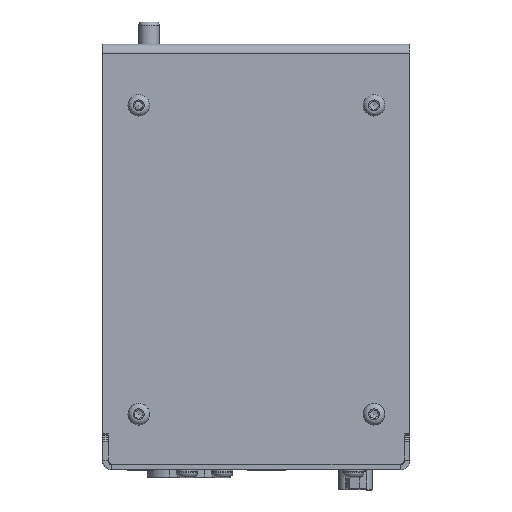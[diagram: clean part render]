
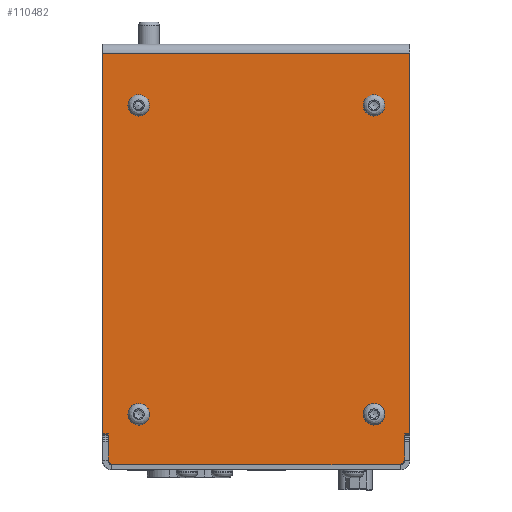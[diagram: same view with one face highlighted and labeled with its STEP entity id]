
A CAD part, front view. The second image highlights one B-rep face of the part: STEP entity #110482.
In plain terms, the highlighted planar face has unit normal (0.002, -1, 0).
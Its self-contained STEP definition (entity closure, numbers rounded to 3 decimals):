
#3684=FACE_BOUND('',#16252,.T.);
#3685=FACE_BOUND('',#16253,.T.);
#3686=FACE_BOUND('',#16254,.T.);
#3687=FACE_BOUND('',#16255,.T.);
#5393=PLANE('',#116049);
#10225=FACE_OUTER_BOUND('',#16251,.T.);
#16251=EDGE_LOOP('',(#83049,#83050,#83051,#83052,#83053,#83054,#83055,#83056,
#83057,#83058,#83059,#83060));
#16252=EDGE_LOOP('',(#83061));
#16253=EDGE_LOOP('',(#83062));
#16254=EDGE_LOOP('',(#83063));
#16255=EDGE_LOOP('',(#83064));
#24101=LINE('',#170630,#35816);
#24182=LINE('',#170842,#35897);
#24186=LINE('',#170849,#35901);
#24187=LINE('',#170852,#35902);
#24188=LINE('',#170854,#35903);
#24189=LINE('',#170856,#35904);
#24190=LINE('',#170858,#35905);
#24191=LINE('',#170860,#35906);
#24192=LINE('',#170861,#35907);
#24193=LINE('',#170862,#35908);
#35816=VECTOR('',#128652,10.);
#35897=VECTOR('',#128829,10.);
#35901=VECTOR('',#128835,10.);
#35902=VECTOR('',#128838,10.);
#35903=VECTOR('',#128839,10.);
#35904=VECTOR('',#128840,10.);
#35905=VECTOR('',#128841,10.);
#35906=VECTOR('',#128842,10.);
#35907=VECTOR('',#128843,10.);
#35908=VECTOR('',#128844,10.);
#43885=CIRCLE('',#115815,3.);
#43900=CIRCLE('',#115853,3.);
#43915=CIRCLE('',#115891,3.);
#43930=CIRCLE('',#115929,3.);
#43984=CIRCLE('',#116046,1.5);
#43986=CIRCLE('',#116050,1.5);
#49177=VERTEX_POINT('',#169926);
#49209=VERTEX_POINT('',#170086);
#49241=VERTEX_POINT('',#170246);
#49273=VERTEX_POINT('',#170406);
#49320=VERTEX_POINT('',#170622);
#49323=VERTEX_POINT('',#170628);
#49402=VERTEX_POINT('',#170832);
#49403=VERTEX_POINT('',#170834);
#49404=VERTEX_POINT('',#170838);
#49406=VERTEX_POINT('',#170841);
#49408=VERTEX_POINT('',#170848);
#49409=VERTEX_POINT('',#170850);
#49410=VERTEX_POINT('',#170853);
#49411=VERTEX_POINT('',#170855);
#49412=VERTEX_POINT('',#170857);
#49413=VERTEX_POINT('',#170859);
#61416=EDGE_CURVE('',#49177,#49177,#43885,.T.);
#61470=EDGE_CURVE('',#49209,#49209,#43900,.T.);
#61524=EDGE_CURVE('',#49241,#49241,#43915,.T.);
#61578=EDGE_CURVE('',#49273,#49273,#43930,.T.);
#61662=EDGE_CURVE('',#49320,#49323,#24101,.T.);
#61762=EDGE_CURVE('',#49402,#49403,#43984,.T.);
#61765=EDGE_CURVE('',#49406,#49404,#24182,.T.);
#61769=EDGE_CURVE('',#49402,#49408,#24186,.T.);
#61770=EDGE_CURVE('',#49409,#49408,#43986,.T.);
#61771=EDGE_CURVE('',#49409,#49320,#24187,.T.);
#61772=EDGE_CURVE('',#49323,#49410,#24188,.T.);
#61773=EDGE_CURVE('',#49411,#49410,#24189,.T.);
#61774=EDGE_CURVE('',#49411,#49412,#24190,.T.);
#61775=EDGE_CURVE('',#49413,#49412,#24191,.T.);
#61776=EDGE_CURVE('',#49413,#49406,#24192,.T.);
#61777=EDGE_CURVE('',#49403,#49404,#24193,.T.);
#83049=ORIENTED_EDGE('',*,*,#61762,.F.);
#83050=ORIENTED_EDGE('',*,*,#61769,.T.);
#83051=ORIENTED_EDGE('',*,*,#61770,.F.);
#83052=ORIENTED_EDGE('',*,*,#61771,.T.);
#83053=ORIENTED_EDGE('',*,*,#61662,.T.);
#83054=ORIENTED_EDGE('',*,*,#61772,.T.);
#83055=ORIENTED_EDGE('',*,*,#61773,.F.);
#83056=ORIENTED_EDGE('',*,*,#61774,.T.);
#83057=ORIENTED_EDGE('',*,*,#61775,.F.);
#83058=ORIENTED_EDGE('',*,*,#61776,.T.);
#83059=ORIENTED_EDGE('',*,*,#61765,.T.);
#83060=ORIENTED_EDGE('',*,*,#61777,.F.);
#83061=ORIENTED_EDGE('',*,*,#61416,.T.);
#83062=ORIENTED_EDGE('',*,*,#61470,.T.);
#83063=ORIENTED_EDGE('',*,*,#61524,.T.);
#83064=ORIENTED_EDGE('',*,*,#61578,.T.);
#110482=ADVANCED_FACE('',(#10225,#3684,#3685,#3686,#3687),#5393,.T.);
#115815=AXIS2_PLACEMENT_3D('',#169927,#128161,#128162);
#115853=AXIS2_PLACEMENT_3D('',#170087,#128264,#128265);
#115891=AXIS2_PLACEMENT_3D('',#170247,#128367,#128368);
#115929=AXIS2_PLACEMENT_3D('',#170407,#128470,#128471);
#116046=AXIS2_PLACEMENT_3D('',#170835,#128822,#128823);
#116049=AXIS2_PLACEMENT_3D('',#170847,#128833,#128834);
#116050=AXIS2_PLACEMENT_3D('',#170851,#128836,#128837);
#128161=DIRECTION('center_axis',(-0.002,1.,
0.));
#128162=DIRECTION('ref_axis',(-1.,-0.002,0.));
#128264=DIRECTION('center_axis',(-0.002,1.,
0.));
#128265=DIRECTION('ref_axis',(-1.,-0.002,0.));
#128367=DIRECTION('center_axis',(-0.002,1.,
0.));
#128368=DIRECTION('ref_axis',(-1.,-0.002,0.));
#128470=DIRECTION('center_axis',(-0.002,1.,
0.));
#128471=DIRECTION('ref_axis',(-1.,-0.002,0.));
#128652=DIRECTION('',(0.,0.,1.));
#128822=DIRECTION('center_axis',(-0.002,1.,
0.));
#128823=DIRECTION('ref_axis',(-0.707,-0.001,-0.707));
#128829=DIRECTION('',(0.,0.,-1.));
#128833=DIRECTION('center_axis',(0.002,-1.,
0.));
#128834=DIRECTION('ref_axis',(1.,0.002,0.));
#128835=DIRECTION('',(1.,0.002,0.));
#128836=DIRECTION('center_axis',(-0.002,1.,
0.));
#128837=DIRECTION('ref_axis',(0.707,0.001,-0.707));
#128838=DIRECTION('',(0.,0.,1.));
#128839=DIRECTION('',(1.,0.002,0.));
#128840=DIRECTION('',(0.,0.,-1.));
#128841=DIRECTION('',(-1.,-0.002,0.));
#128842=DIRECTION('',(0.,0.,1.));
#128843=DIRECTION('',(1.,0.002,0.));
#128844=DIRECTION('',(0.,0.,1.));
#169926=CARTESIAN_POINT('',(-190.104,92.471,32.991));
#169927=CARTESIAN_POINT('Origin',(-193.104,92.464,32.991));
#170086=CARTESIAN_POINT('',(-124.604,92.607,118.991));
#170087=CARTESIAN_POINT('Origin',(-127.604,92.6,118.991));
#170246=CARTESIAN_POINT('',(-190.104,92.471,118.991));
#170247=CARTESIAN_POINT('Origin',(-193.104,92.464,118.991));
#170406=CARTESIAN_POINT('',(-124.604,92.607,32.991));
#170407=CARTESIAN_POINT('Origin',(-127.604,92.6,32.991));
#170622=CARTESIAN_POINT('',(-119.104,92.618,25.491));
#170628=CARTESIAN_POINT('',(-119.104,92.618,27.491));
#170630=CARTESIAN_POINT('',(-119.104,92.618,52.516));
#170832=CARTESIAN_POINT('',(-200.104,92.45,18.991));
#170834=CARTESIAN_POINT('',(-201.604,92.447,20.491));
#170835=CARTESIAN_POINT('Origin',(-200.104,92.45,20.491));
#170838=CARTESIAN_POINT('',(-201.604,92.447,25.491));
#170841=CARTESIAN_POINT('',(-201.604,92.447,27.491));
#170842=CARTESIAN_POINT('',(-201.604,92.447,48.266));
#170847=CARTESIAN_POINT('Origin',(-160.354,92.532,77.541));
#170848=CARTESIAN_POINT('',(-120.604,92.615,18.991));
#170849=CARTESIAN_POINT('',(-117.604,92.621,18.991));
#170850=CARTESIAN_POINT('',(-119.104,92.618,20.491));
#170851=CARTESIAN_POINT('Origin',(-120.604,92.615,20.491));
#170852=CARTESIAN_POINT('',(-119.104,92.618,17.391));
#170853=CARTESIAN_POINT('',(-117.604,92.621,27.491));
#170854=CARTESIAN_POINT('',(-138.979,92.577,27.491));
#170855=CARTESIAN_POINT('',(-117.604,92.621,133.491));
#170856=CARTESIAN_POINT('',(-117.604,92.621,133.491));
#170857=CARTESIAN_POINT('',(-203.104,92.444,133.491));
#170858=CARTESIAN_POINT('',(-160.354,92.532,133.491));
#170859=CARTESIAN_POINT('',(-203.104,92.444,27.491));
#170860=CARTESIAN_POINT('',(-203.104,92.444,136.091));
#170861=CARTESIAN_POINT('',(-180.979,92.49,27.491));
#170862=CARTESIAN_POINT('',(-201.604,92.447,17.391));
